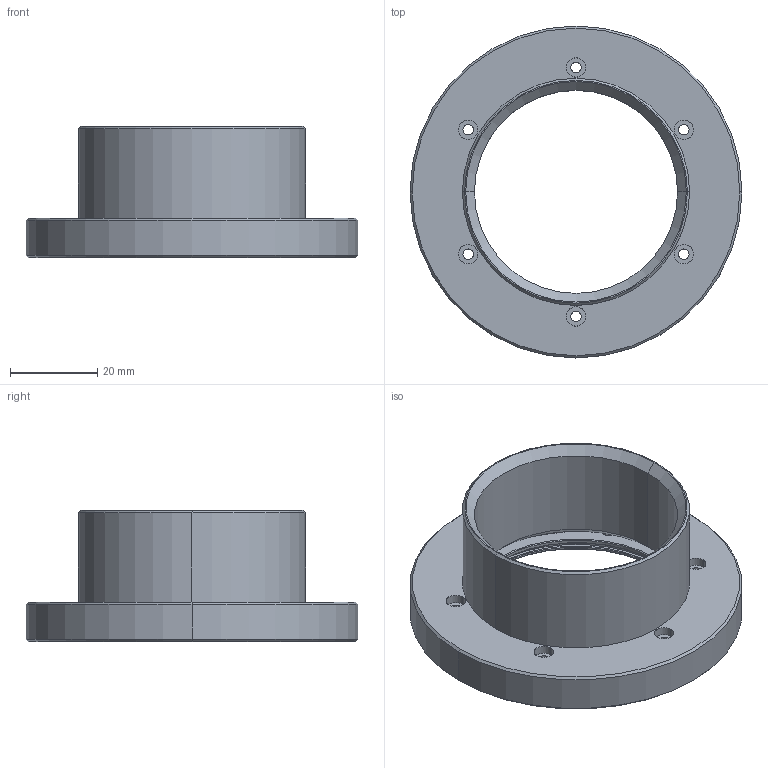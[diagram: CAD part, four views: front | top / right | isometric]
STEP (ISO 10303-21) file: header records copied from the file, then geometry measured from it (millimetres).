
FILE_DESCRIPTION (( 'STEP AP214' ), '1' );
FILE_NAME ('1P453 Ofenrohradapter Rev0.STEP', '2019-10-02T14:25:42', ( 'admin' ), ( '' ), 'SwSTEP 2.0', 'SolidWorks 2017', '' );
FILE_SCHEMA (( 'AUTOMOTIVE_DESIGN' ));
Length unit declared in the file: millimetre
Products named in the file (1): 1P453 Ofenrohradapter Rev0
Bounding box: 76 x 76 x 30 mm (x, y, z)
Volume: 23315.2 mm3; surface area: 18813.8 mm2
Topology: 1 solids, 1 shells, 166 faces, 433 edges, 265 vertices
Faces by surface type: cylinder 79, cone 73, plane 14
Entity records: 5286 total; most frequent: DIRECTION 1032, ORIENTED_EDGE 866, CARTESIAN_POINT 865, EDGE_CURVE 433, AXIS2_PLACEMENT_3D 432, CIRCLE 265, VERTEX_POINT 265, EDGE_LOOP 200
